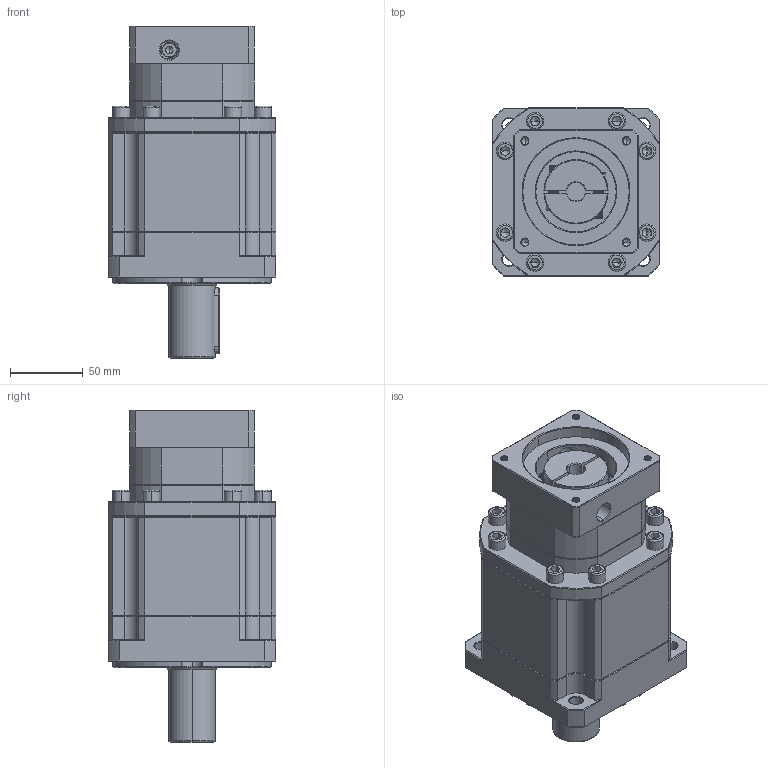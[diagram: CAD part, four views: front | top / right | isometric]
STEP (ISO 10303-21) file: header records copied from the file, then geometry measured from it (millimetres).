
FILE_DESCRIPTION (( 'STEP AP214' ), '1' );
FILE_NAME ('ZB115A-D32-L3-12.7-73-69.5X69.5-M6.step', '2023-03-03T09:55:45', ( '' ), ( 'Microsoft' ), 'SwSTEP 2.0', 'SolidWorks 2016', '' );
FILE_SCHEMA (( 'AUTOMOTIVE_DESIGN' ));
Length unit declared in the file: millimetre
Products named in the file (1): ZB115A-D32-L3-12.7-73-69.5X69.5-M6
Bounding box: 115 x 115 x 227.5 mm (x, y, z)
Volume: 1706064 mm3; surface area: 146468.1 mm2
Topology: 5 solids, 6 shells, 2132 faces, 5505 edges, 3470 vertices
Faces by surface type: plane 1006, cylinder 425, cone 357, bspline 329, torus 15
Entity records: 112558 total; most frequent: CARTESIAN_POINT 40079, ORIENTED_EDGE 10934, DIRECTION 8972, EDGE_CURVE 5467, VERTEX_POINT 3470, LINE 3418, VECTOR 3418, AXIS2_PLACEMENT_3D 2777
